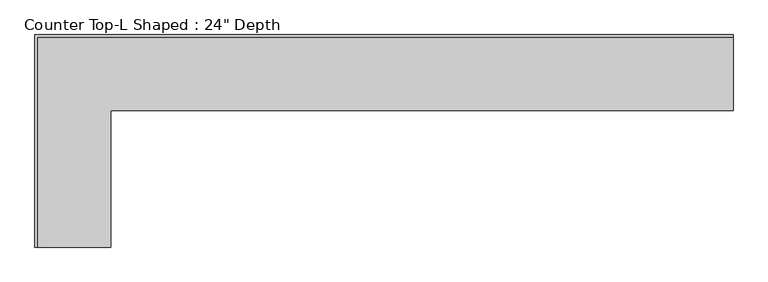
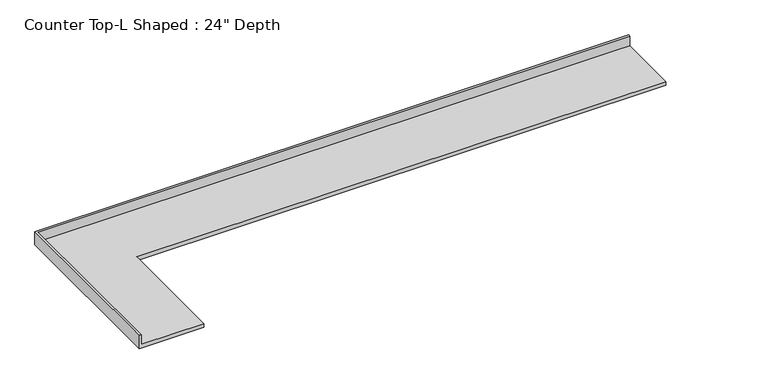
"""IFC4 building model written with IfcOpenShell, lengths in millimetres: furniture geometry."""

from ifc_helpers import new_model, si_unit, origin, place, context, project, spatial, faceted_brep, source, transform, mapped, element, save


def furniture_7e2977de(model_context):
    return source(origin(), model_context, "Body", "Brep", [
        faceted_brep([(-565.4622951, -1781.175, 914.4), (-565.4622951, -635.0, 914.4), (4647.8877049, -635.0, 914.4), (4647.8877049, -19.05, 914.4), (-1181.4122951, -19.05, 914.4), (-1181.4122951, -1781.175, 914.4), (4647.8877049, 0.0, 876.3), (4647.8877049, -635.0, 876.3), (-565.4622951, -635.0, 876.3), (-565.4622951, -1781.175, 876.3), (-1200.4622951, -1781.175, 876.3), (-1200.4622951, 0.0, 876.3), (-1200.4622951, 0.0, 1016.0), (4647.8877049, 0.0, 1016.0), (-1200.4622951, -1781.175, 1016.0), (-1181.4122951, -1781.175, 1016.0), (4647.8877049, -19.05, 1016.0), (-1181.4122951, -19.05, 1016.0)], [[[0, 1, 2, 3, 4, 5]], [[6, 7, 8, 9, 10, 11]], [[6, 11, 12, 13]], [[11, 10, 14, 12]], [[14, 10, 9, 0, 5, 15]], [[1, 0, 9, 8]], [[2, 1, 8, 7]], [[7, 6, 13, 16, 3, 2]], [[12, 14, 15, 17, 16, 13]], [[3, 16, 17, 4]], [[17, 15, 5, 4]]]),
    ])


if __name__ == "__main__":
    model = new_model("IFC4")
    model_context = context("Model", 3, world=origin())
    ifc_project = project(units=[si_unit("LENGTHUNIT", "METRE", prefix="MILLI")], contexts=[model_context])
    site = spatial("IfcSite", under=ifc_project)
    building = spatial("IfcBuilding", under=site)
    placement = place(None, origin())
    furniture_shape = furniture_7e2977de(model_context)
    element("IfcFurniture", 1, ObjectType="Counter Top-L Shaped : 24\" Depth", at=placement, inside=building, context=model_context, shape_type="MappedRepresentation", body=[
        mapped(furniture_shape, transform((0.0, 0.0, 0.0), x_axis=(1.0, 0.0, 0.0), y_axis=(0.0, 1.0, 0.0), z_axis=(0.0, 0.0, 1.0))),
    ])
    save(model, "model.ifc")
